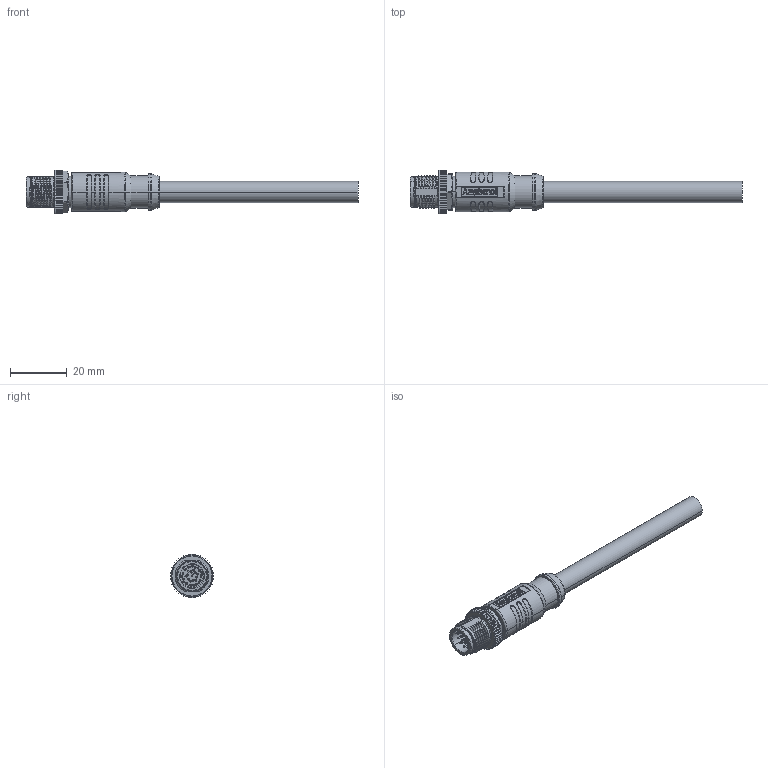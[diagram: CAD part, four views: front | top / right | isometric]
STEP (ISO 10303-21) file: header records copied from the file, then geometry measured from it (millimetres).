
FILE_DESCRIPTION(('OneSpaceDesigner STEP Export'),'2;1');
FILE_NAME('MSAS-17BMMM-SL8DXX-STP.stp','2021-03-29T15:48:43',(''),(''),'OneSpace Designer STEP processor for AP214 (Solid Model)','OneSpace Designer 13.20 11-May-2005 (C) CoCreate Software GmbH','');
FILE_SCHEMA(('AUTOMOTIVE_DESIGN { 1 0 10303 214 1 1 1 1 }'));
Products named in the file (2): APJ00010104
Assembly tree (1 placements, depth 2):
  APJ00010104
    APJ00010104
Bounding box: 117 x 15.3 x 15.5 mm (x, y, z)
Volume: 8607 mm3; surface area: 6267.7 mm2
Topology: 1 solids, 18 shells, 1782 faces, 4593 edges, 2855 vertices
Faces by surface type: plane 572, cylinder 463, extrusion 307, cone 164, bspline 138, sphere 80, torus 58
Entity records: 74673 total; most frequent: CARTESIAN_POINT 37086, ORIENTED_EDGE 8958, DIRECTION 5859, EDGE_CURVE 4479, VERTEX_POINT 2855, VECTOR 2417, LINE 2110, EDGE_LOOP 1960
